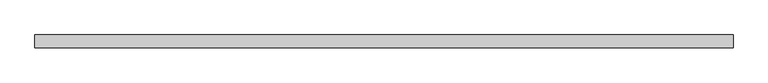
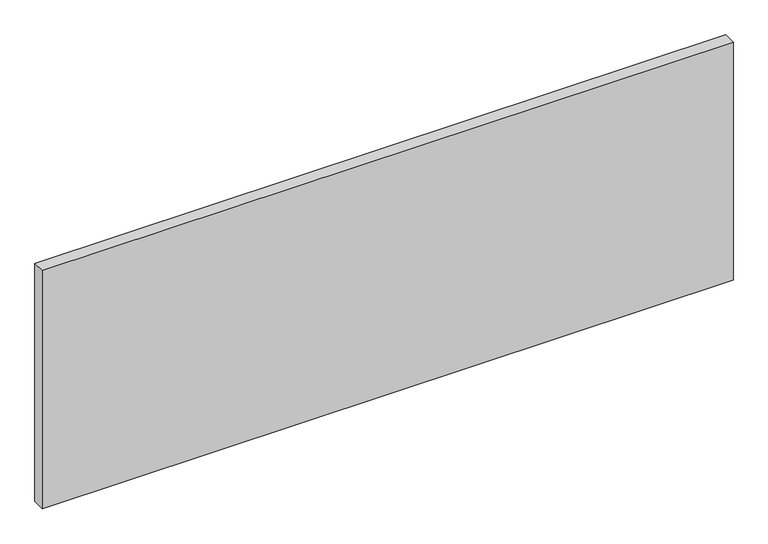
"""IFC4 building model written with IfcOpenShell, lengths in millimetres: plate geometry, Lod 200 Regolare 800 Horizontal : Azuro."""

from ifc_helpers import new_model, si_unit, origin, origin_with_axes, place, context, project, spatial, polyline, outline, extrude, source, transform, mapped, element, save


def plate_5120cc5c(model_context):
    return source(origin(), model_context, "Body", "SweptSolid", [
        extrude(outline(polyline([(1097.5, -40.0), (-1097.5, -40.0), (-1097.5, 0.0), (1097.5, 0.0), (1097.5, -40.0)])), origin_with_axes(), (0.0, 0.0, 1.0), 800.0),
    ])


if __name__ == "__main__":
    model = new_model("IFC4")
    model_context = context("Model", 3, world=origin())
    ifc_project = project(units=[si_unit("LENGTHUNIT", "METRE", prefix="MILLI")], contexts=[model_context])
    site = spatial("IfcSite", under=ifc_project)
    building = spatial("IfcBuilding", under=site)
    placement = place(None, origin())
    plate_shape = plate_5120cc5c(model_context)
    element("IfcPlate", 1, ObjectType="Lod 200 Regolare 800 Horizontal : Azuro", at=placement, inside=building, context=model_context, shape_type="MappedRepresentation", body=[
        mapped(plate_shape, transform((0.0, 0.0, 0.0), x_axis=(1.0, 0.0, 0.0), y_axis=(0.0, 1.0, 0.0), z_axis=(0.0, 0.0, 1.0))),
    ])
    save(model, "model.ifc")
